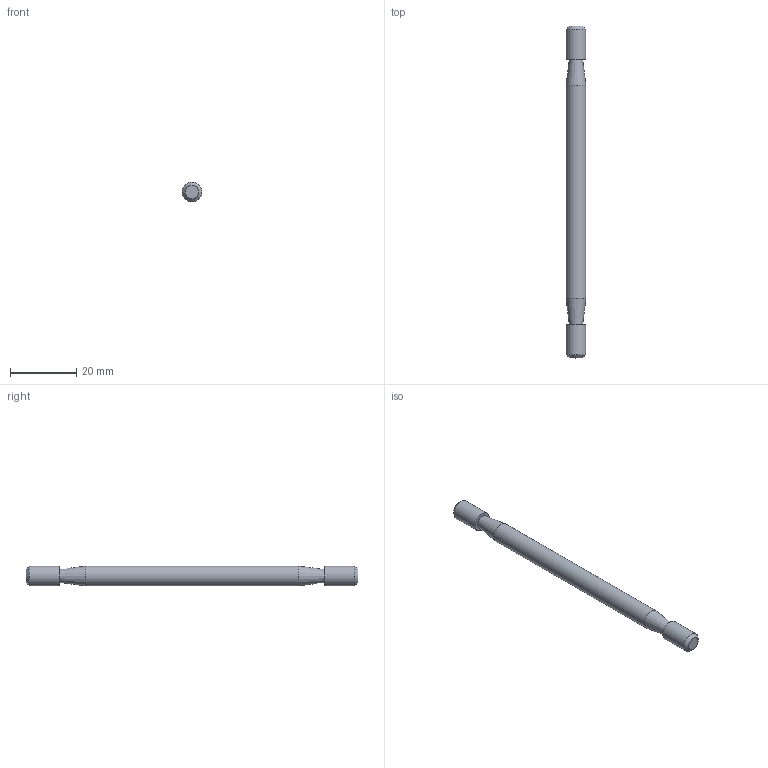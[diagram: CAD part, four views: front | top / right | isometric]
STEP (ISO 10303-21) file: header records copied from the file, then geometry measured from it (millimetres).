
FILE_DESCRIPTION(/* description */ (''),/* implementation_level */ '2;1');
FILE_NAME(/* name */ 'H:\5-Olympiades\47e\Sujet Régional\Etau\A donner aux candidats\2-Après-Midi\05-Levier de blocage Mors.stp',/* time_stamp */ '2022-03-30T08:35:07+02:00',/* author */ ('Philippe'),/* organization */ (''),/* preprocessor_version */ 'ST-DEVELOPER v18',/* originating_system */ 'Autodesk Inventor 2020',/* authorisation */ '');
FILE_SCHEMA (('AUTOMOTIVE_DESIGN { 1 0 10303 214 3 1 1 }'));
Length unit declared in the file: millimetre
Products named in the file (1): 05-Levier de blocage Mors
Bounding box: 6 x 100 x 6 mm (x, y, z)
Volume: 2676.6 mm3; surface area: 1899.9 mm2
Topology: 1 solids, 1 shells, 11 faces, 25 edges, 18 vertices
Faces by surface type: cone 4, plane 4, cylinder 3
Full cylindrical faces by diameter (mm): 6 x3
Entity records: 370 total; most frequent: DIRECTION 67, CARTESIAN_POINT 55, ORIENTED_EDGE 50, AXIS2_PLACEMENT_3D 30, EDGE_CURVE 25, CIRCLE 18, VERTEX_POINT 18, EDGE_LOOP 13
